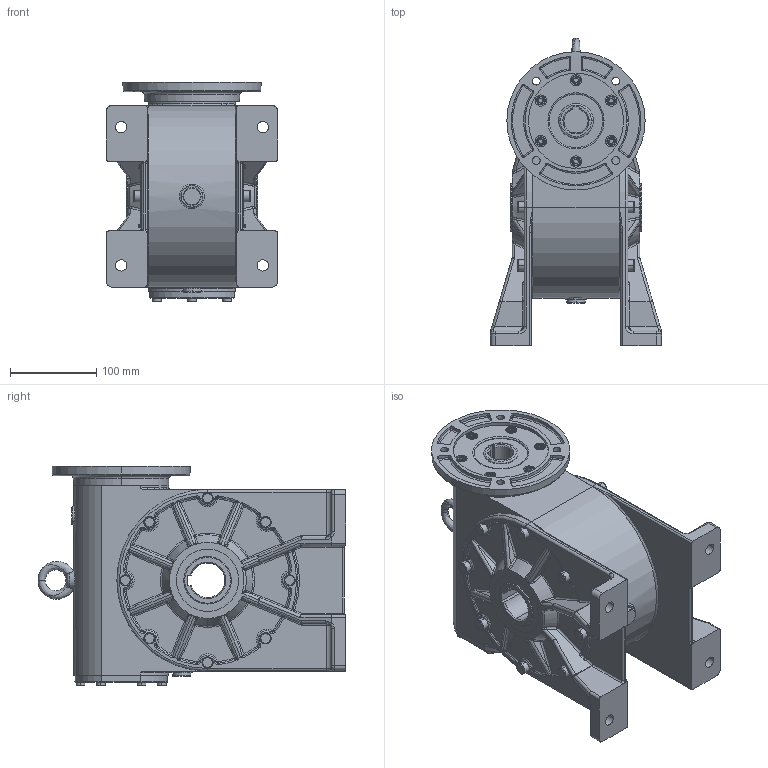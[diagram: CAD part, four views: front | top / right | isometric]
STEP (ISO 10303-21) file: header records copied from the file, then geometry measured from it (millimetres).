
FILE_DESCRIPTION (( 'STEP AP214' ), '1' );
FILE_NAME ('Sestava MRT100-A.STEP', '2007-06-26T07:19:15', ( '' ), ( '' ), 'SwSTEP 2.0', 'SolidWorks 2004146', '' );
FILE_SCHEMA (( 'AUTOMOTIVE_DESIGN' ));
Length unit declared in the file: millimetre
Products named in the file (7): Sroub s vnitrnim sestihranem DIN 912 00457ROI; A18151M_ANSI B18.15.1M Závìsný šroub M10; Sestava MRT100-A; Patka 100_Výchozí; Víèko_Výchozí; Skøíò100_Výchozí; Pøíruba MRT100 kulatá _110-130-150
Assembly tree (12 placements, depth 2):
  Sestava MRT100-A
    Víèko_Výchozí
    Pøíruba MRT100 kulatá _110-130-150
    Patka 100_Výchozí  x2
    Sroub s vnitrnim sestihranem DIN 912 00457ROI  x6
    A18151M_ANSI B18.15.1M Závìsný šroub M10
    Skøíò100_Výchozí
Bounding box: 198 x 356 x 254 mm (x, y, z)
Volume: 6393500.4 mm3; surface area: 575373.4 mm2
Topology: 12 solids, 12 shells, 1325 faces, 3037 edges, 1744 vertices
Faces by surface type: torus 385, cylinder 301, plane 230, bspline 206, cone 139, sphere 64
Entity records: 69558 total; most frequent: CARTESIAN_POINT 51983, DIRECTION 3860, ORIENTED_EDGE 3536, EDGE_CURVE 1768, AXIS2_PLACEMENT_3D 1729, VERTEX_POINT 1049, CIRCLE 1049, EDGE_LOOP 847
